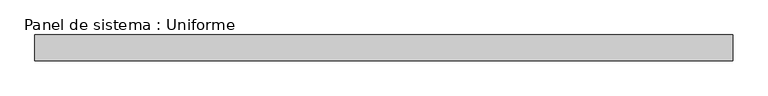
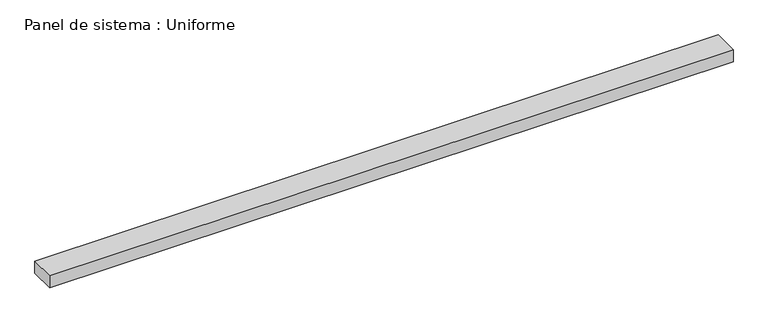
"""IFC4 building model written with IfcOpenShell, lengths in millimetres: plate geometry, Panel de sistema : Uniforme."""

from ifc_helpers import new_model, si_unit, origin, origin_with_axes, place, context, project, spatial, polyline, outline, extrude, source, transform, mapped, element, save


def panel_de_sistema_uniforme_2ffce642(model_context):
    return source(origin(), model_context, "Body", "SweptSolid", [
        extrude(outline(polyline([(1341.702362, -50.0), (-1341.702362, -50.0), (-1341.702362, 50.0), (1341.702362, 50.0), (1341.702362, -50.0)])), origin_with_axes(), (0.0, 0.0, 1.0), 50.0),
    ])


if __name__ == "__main__":
    model = new_model("IFC4")
    model_context = context("Model", 3, world=origin())
    ifc_project = project(units=[si_unit("LENGTHUNIT", "METRE", prefix="MILLI")], contexts=[model_context])
    site = spatial("IfcSite", under=ifc_project)
    building = spatial("IfcBuilding", under=site)
    placement = place(None, origin())
    panel_de_sistema_uniforme_shape = panel_de_sistema_uniforme_2ffce642(model_context)
    element("IfcPlate", 1, ObjectType="Panel de sistema : Uniforme", at=placement, inside=building, context=model_context, shape_type="MappedRepresentation", body=[
        mapped(panel_de_sistema_uniforme_shape, transform((0.0, 0.0, 0.0), x_axis=(1.0, 0.0, 0.0), y_axis=(0.0, 1.0, 0.0), z_axis=(0.0, 0.0, 1.0))),
    ])
    save(model, "model.ifc")
